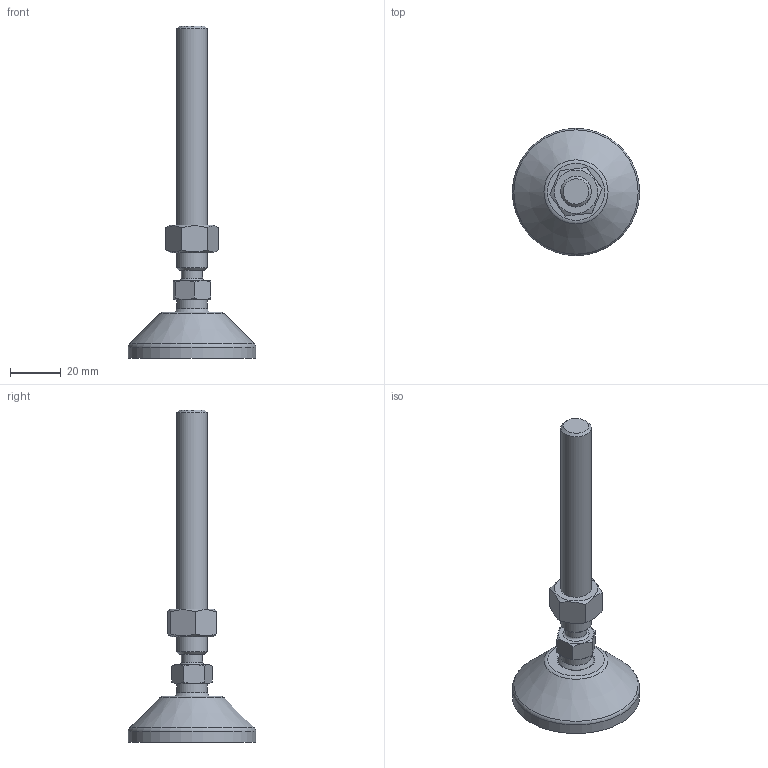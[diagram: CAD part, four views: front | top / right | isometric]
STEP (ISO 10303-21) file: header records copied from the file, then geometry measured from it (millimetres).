
FILE_DESCRIPTION(('STEP AP203'), '1');
FILE_NAME('栖闉罻', '', ('UNSPECIFIED'), ('UNSPECIFIED'), 'C3D Converter', 'C3D Toolkit', '');
FILE_SCHEMA(('CONFIG_CONTROL_DESIGN'));
Length unit declared in the file: millimetre
Products named in the file (4): A00015.1050; A00020.112100
Assembly tree (3 placements, depth 3):
  (unnamed)
    A00015.1050
    A00020.112100
      (unnamed)
Bounding box: 50 x 50 x 130.4 mm (x, y, z)
Volume: 31710.4 mm3; surface area: 14148.9 mm2
Topology: 3 solids, 3 shells, 189 faces, 500 edges, 330 vertices
Faces by surface type: plane 87, cylinder 50, torus 30, cone 20, sphere 2
Full cylindrical faces by diameter (mm): 4 x8, 8.3 x1, 10.647 x1, 12 x2, 14.3 x1, 15 x2, 15.5 x1, 39 x1, 50 x1
Entity records: 9755 total; most frequent: CARTESIAN_POINT 3487, DIRECTION 956, ORIENTED_EDGE 930, EDGE_CURVE 465, AXIS2_PLACEMENT_3D 400, VERTEX_POINT 329, EDGE_LOOP 238, CIRCLE 207
